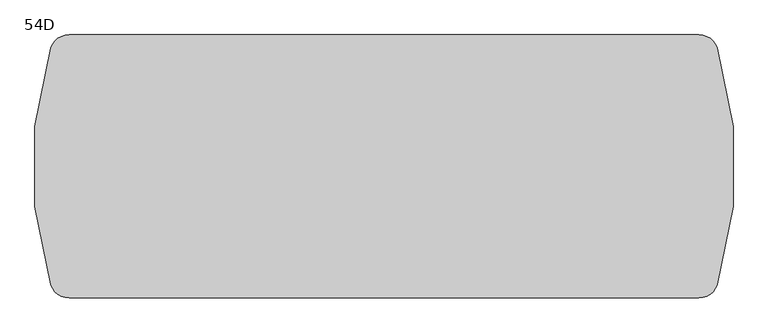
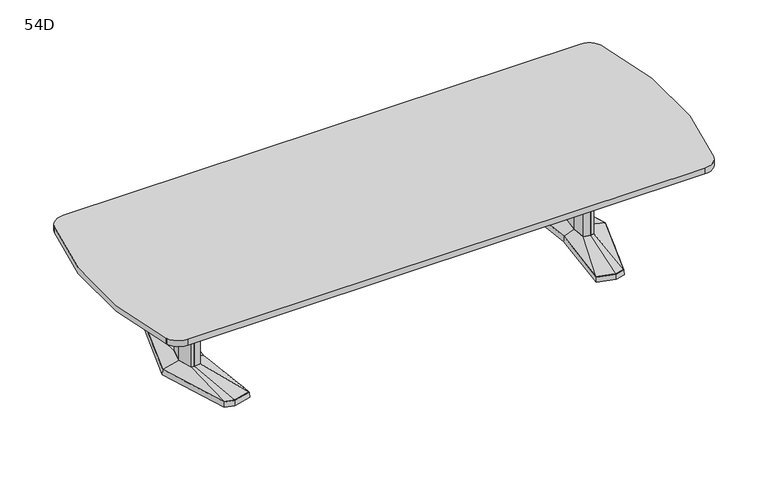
"""IFC4 building model written with IfcOpenShell, lengths in millimetres: furniture geometry, Coalesse_AM_Table_Conference_ETable2_SoftRadiused_12ft_AluminiumBase : 54D."""

from ifc_helpers import new_model, si_unit, point, frame, frame_2d, origin, place, context, project, spatial, polyline, circle_curve, trimmed, segment, composite_curve, outline, extrude, faceted_brep, source, transform, mapped, element, save
from ifc_brep_helpers import plane_surface, spline_surface, advanced_brep


def furniture_54d_2dc7402a(model_context):
    return source(origin(), model_context, "Body", "SolidModel", [
        faceted_brep([(1210.6306835, 455.5848221, 38.1), (1101.0531277, 426.2263816, 38.1), (1142.2163717, 0.0, 38.1), (1101.0531277, -426.2263816, 38.1), (1210.6306835, -455.5848221, 38.1), (1266.7570396, -440.5478297, 38.1), (1404.0684269, 0.0, 38.1), (1266.7570396, 440.5478297, 38.1), (1210.6306754, 457.2283104, 3.175), (1268.0124472, 441.8549756, 3.175), (1405.73125, 0.0, 3.175), (1268.0124472, -441.8549756, 3.175), (1210.6306754, -457.2283104, 3.175), (1099.34375, -427.4118891, 3.175), (1140.6214856, 0.0, 3.175), (1099.34375, 427.4118891, 3.175), (1214.220115, 428.3273875, 3.175), (1109.1718228, 402.1057253, 3.175), (1117.290518, 377.985069, 3.175), (1217.8095466, 401.0699529, 3.175), (1268.3691725, 387.524361, 3.175), (1267.5631061, 414.0360954, 3.175), (1214.220115, -428.3273875, 3.175), (1267.5631061, -414.0360954, 3.175), (1268.3691725, -387.524361, 3.175), (1217.8095466, -401.0699529, 3.175), (1117.290518, -377.985069, 3.175), (1109.1718228, -402.1057253, 3.175), (1340.8153621, 0.0, 3.175), (1308.5459611, 120.4193755, 3.175), (1259.8987222, 133.471665, 3.175), (1180.0180526, 119.4176561, 3.175), (1168.8868466, 0.0, 3.175), (1180.0180526, -119.4176561, 3.175), (1259.8987222, -133.471665, 3.175), (1308.5459611, -120.4193755, 3.175), (1214.220115, 428.3273875, 0.0), (1267.5631061, 414.0360954, 0.0), (1268.3691725, 387.524361, 0.0), (1217.8095466, 401.0699529, 0.0), (1117.290518, 377.985069, 0.0), (1109.1718228, 402.1057253, 0.0), (1214.220115, -428.3273875, 0.0), (1109.1718228, -402.1057253, 0.0), (1117.290518, -377.985069, 0.0), (1217.8095466, -401.0699529, 0.0), (1268.3691725, -387.524361, 0.0), (1267.5631061, -414.0360954, 0.0), (1340.8153621, 0.0, 0.0), (1308.5459611, -120.4193755, 0.0), (1259.8987222, -133.471665, 0.0), (1180.0180526, -119.4176561, 0.0), (1168.8868466, 0.0, 0.0), (1180.0180526, 119.4176561, 0.0), (1259.8987222, 133.471665, 0.0), (1308.5459611, 120.4193755, 0.0)], [[[0, 1, 2, 3, 4, 5, 6, 7]], [[8, 9, 10, 11, 12, 13, 14, 15], [16, 17, 18, 19, 20, 21], [22, 23, 24, 25, 26, 27], [28, 29, 30, 31, 32, 33, 34, 35]], [[7, 9, 8, 0]], [[6, 10, 9, 7]], [[5, 11, 10, 6]], [[4, 12, 11, 5]], [[3, 13, 12, 4]], [[2, 14, 13, 3]], [[1, 15, 14, 2]], [[0, 8, 15, 1]], [[36, 37, 38, 39, 40, 41]], [[42, 43, 44, 45, 46, 47]], [[48, 49, 50, 51, 52, 53, 54, 55]], [[36, 16, 21, 37]], [[37, 21, 20, 38]], [[38, 20, 19, 39]], [[39, 19, 18, 40]], [[40, 18, 17, 41]], [[41, 17, 16, 36]], [[42, 22, 27, 43]], [[43, 27, 26, 44]], [[44, 26, 25, 45]], [[45, 25, 24, 46]], [[46, 24, 23, 47]], [[47, 23, 22, 42]], [[48, 28, 35, 49]], [[49, 35, 34, 50]], [[50, 34, 33, 51]], [[51, 33, 32, 52]], [[52, 32, 31, 53]], [[53, 31, 30, 54]], [[54, 30, 29, 55]], [[55, 29, 28, 48]]]),
        faceted_brep([(1301.3710836, 0.0, 698.5), (1277.4358546, 89.3188359, 698.5), (1260.5824984, 93.8406728, 698.5), (1258.1826511, 94.4845635, 698.5), (1215.255146, 86.9320037, 698.5), (1207.1520056, 0.0, 698.5), (1215.255146, -86.9320037, 698.5), (1258.1826511, -94.4845635, 698.5), (1260.5824984, -93.8406728, 698.5), (1277.4358546, -89.3188359, 698.5), (1301.3710836, 0.0, 63.5), (1277.4358546, -89.3188359, 63.5), (1260.5824984, -93.8406728, 63.5), (1258.1826511, -94.4845635, 63.5), (1215.255146, -86.9320037, 63.5), (1207.1520056, 0.0, 63.5), (1215.255146, 86.9320037, 63.5), (1258.1826511, 94.4845635, 63.5), (1260.5824984, 93.8406728, 63.5), (1277.4358546, 89.3188359, 63.5)], [[[0, 1, 2, 3, 4, 5, 6, 7, 8, 9]], [[10, 11, 12, 13, 14, 15, 16, 17, 18, 19]], [[9, 11, 10, 0]], [[8, 12, 11, 9]], [[7, 13, 12, 8]], [[6, 14, 13, 7]], [[5, 15, 14, 6]], [[4, 16, 15, 5]], [[3, 17, 16, 4]], [[2, 18, 17, 3]], [[1, 19, 18, 2]], [[0, 10, 19, 1]]]),
        advanced_brep(
        [(1258.1826511, 94.4845635, 63.5), (1215.255146, 86.9320037, 63.5), (1207.1520056, 0.0, 63.5), (1215.255146, -86.9320037, 63.5), (1258.1826511, -94.4845635, 63.5), (1277.4358546, -89.3188359, 63.5), (1301.3710836, 0.0, 63.5), (1277.4358546, 89.3188359, 63.5), (1210.6306835, 455.5848221, 38.1), (1266.7570396, 440.5478297, 38.1), (1404.0684269, 0.0, 38.1), (1266.7570396, -440.5478297, 38.1), (1210.6306835, -455.5848221, 38.1), (1101.0531277, -426.2263816, 38.1), (1142.2163717, 0.0, 38.1), (1101.0531277, 426.2263816, 38.1)],
        [
            (0, 1),
            (1, 2),
            (2, 3),
            (3, 4),
            (4, 5),
            (5, 6),
            (6, 7),
            (7, 0),
            (8, 9),
            (9, 10),
            (10, 11),
            (11, 12),
            (12, 13),
            (13, 14),
            (14, 15),
            (15, 8),
            (8, 0),
            (7, 9),
            (6, 10),
            (5, 11),
            (4, 12),
            (3, 13),
            (2, 14),
            (1, 15),
        ],
        [
            plane_surface(frame((1251.2837991, 0.0, 63.5), z_axis=(0.0, 0.0, 1.0), x_axis=(-0.25884244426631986, -0.9659195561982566, 0.0))),
            plane_surface(frame((1212.8958125, 0.0, 38.1), z_axis=(0.0, 0.0, -1.0), x_axis=(-0.25884244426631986, -0.9659195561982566, 0.0))),
            spline_surface(1, 1, [[(1210.6306835, 455.5848221, 38.1), (1266.7570396, 440.5478297, 38.1)], [(1258.1826511, 94.4845635, 63.5), (1277.4358546, 89.3188359, 63.5)]], [2, 2], [2, 2], [0.0, 1.0], [0.0, 1.0]),
            spline_surface(1, 1, [[(1266.7570396, 440.5478297, 38.1), (1404.0684269, 0.0, 38.1)], [(1277.4358546, 89.3188359, 63.5), (1301.3710836, 0.0, 63.5)]], [2, 2], [2, 2], [0.0, 1.0], [0.0, 1.0]),
            spline_surface(1, 1, [[(1404.0684269, 0.0, 38.1), (1266.7570396, -440.5478297, 38.1)], [(1301.3710836, 0.0, 63.5), (1277.4358546, -89.3188359, 63.5)]], [2, 2], [2, 2], [0.0, 1.0], [0.0, 1.0]),
            spline_surface(1, 1, [[(1266.7570396, -440.5478297, 38.1), (1210.6306835, -455.5848221, 38.1)], [(1277.4358546, -89.3188359, 63.5), (1258.1826511, -94.4845635, 63.5)]], [2, 2], [2, 2], [0.0, 1.0], [0.0, 1.0]),
            spline_surface(1, 1, [[(1210.6306835, -455.5848221, 38.1), (1101.0531277, -426.2263816, 38.1)], [(1258.1826511, -94.4845635, 63.5), (1215.255146, -86.9320037, 63.5)]], [2, 2], [2, 2], [0.0, 1.0], [0.0, 1.0]),
            spline_surface(1, 1, [[(1101.0531277, -426.2263816, 38.1), (1142.2163717, 0.0, 38.1)], [(1215.255146, -86.9320037, 63.5), (1207.1520056, 0.0, 63.5)]], [2, 2], [2, 2], [0.0, 1.0], [0.0, 1.0]),
            spline_surface(1, 1, [[(1142.2163717, 0.0, 38.1), (1101.0531277, 426.2263816, 38.1)], [(1207.1520056, 0.0, 63.5), (1215.255146, 86.9320037, 63.5)]], [2, 2], [2, 2], [0.0, 1.0], [0.0, 1.0]),
            spline_surface(1, 1, [[(1101.0531277, 426.2263816, 38.1), (1210.6306835, 455.5848221, 38.1)], [(1215.255146, 86.9320037, 63.5), (1258.1826511, 94.4845635, 63.5)]], [2, 2], [2, 2], [0.0, 1.0], [0.0, 1.0]),
        ],
        [
            (0, [[1, 2, 3, 4, 5, 6, 7, 8]]),
            (1, [[9, 10, 11, 12, 13, 14, 15, 16]]),
            (2, [[17, -8, 18, -9]]),
            (3, [[-18, -7, 19, -10]]),
            (4, [[-19, -6, 20, -11]]),
            (5, [[-20, -5, 21, -12]]),
            (6, [[-21, -4, 22, -13]]),
            (7, [[-22, -3, 23, -14]]),
            (8, [[-23, -2, 24, -15]]),
            (9, [[-24, -1, -17, -16]]),
        ],
    ),
        faceted_brep([(-1210.6306835, 455.5848221, 38.1), (-1266.7570396, 440.5478297, 38.1), (-1404.0684269, 0.0, 38.1), (-1266.7570396, -440.5478297, 38.1), (-1210.6306835, -455.5848221, 38.1), (-1101.0531277, -426.2263816, 38.1), (-1142.2163717, 0.0, 38.1), (-1101.0531277, 426.2263816, 38.1), (-1210.6306754, 457.2283104, 3.175), (-1099.34375, 427.4118891, 3.175), (-1140.6214856, 0.0, 3.175), (-1099.34375, -427.4118891, 3.175), (-1210.6306754, -457.2283104, 3.175), (-1268.0124472, -441.8549756, 3.175), (-1405.73125, 0.0, 3.175), (-1268.0124472, 441.8549756, 3.175), (-1214.220115, 428.3273875, 3.175), (-1267.5631061, 414.0360954, 3.175), (-1268.3691725, 387.524361, 3.175), (-1217.8095466, 401.0699529, 3.175), (-1117.290518, 377.985069, 3.175), (-1109.1718228, 402.1057253, 3.175), (-1214.220115, -428.3273875, 3.175), (-1109.1718228, -402.1057253, 3.175), (-1117.290518, -377.985069, 3.175), (-1217.8095466, -401.0699529, 3.175), (-1268.3691725, -387.524361, 3.175), (-1267.5631061, -414.0360954, 3.175), (-1340.8153621, 0.0, 3.175), (-1308.5459611, -120.4193755, 3.175), (-1259.8987222, -133.471665, 3.175), (-1180.0180526, -119.4176561, 3.175), (-1168.8868466, 0.0, 3.175), (-1180.0180526, 119.4176561, 3.175), (-1259.8987222, 133.471665, 3.175), (-1308.5459611, 120.4193755, 3.175), (-1214.220115, 428.3273875, 0.0), (-1109.1718228, 402.1057253, 0.0), (-1117.290518, 377.985069, 0.0), (-1217.8095466, 401.0699529, 0.0), (-1268.3691725, 387.524361, 0.0), (-1267.5631061, 414.0360954, 0.0), (-1214.220115, -428.3273875, 0.0), (-1267.5631061, -414.0360954, 0.0), (-1268.3691725, -387.524361, 0.0), (-1217.8095466, -401.0699529, 0.0), (-1117.290518, -377.985069, 0.0), (-1109.1718228, -402.1057253, 0.0), (-1340.8153621, 0.0, 0.0), (-1308.5459611, 120.4193755, 0.0), (-1259.8987222, 133.471665, 0.0), (-1180.0180526, 119.4176561, 0.0), (-1168.8868466, 0.0, 0.0), (-1180.0180526, -119.4176561, 0.0), (-1259.8987222, -133.471665, 0.0), (-1308.5459611, -120.4193755, 0.0)], [[[0, 1, 2, 3, 4, 5, 6, 7]], [[8, 9, 10, 11, 12, 13, 14, 15], [16, 17, 18, 19, 20, 21], [22, 23, 24, 25, 26, 27], [28, 29, 30, 31, 32, 33, 34, 35]], [[1, 0, 8, 15]], [[2, 1, 15, 14]], [[3, 2, 14, 13]], [[4, 3, 13, 12]], [[5, 4, 12, 11]], [[6, 5, 11, 10]], [[7, 6, 10, 9]], [[0, 7, 9, 8]], [[36, 37, 38, 39, 40, 41]], [[42, 43, 44, 45, 46, 47]], [[48, 49, 50, 51, 52, 53, 54, 55]], [[36, 41, 17, 16]], [[41, 40, 18, 17]], [[40, 39, 19, 18]], [[39, 38, 20, 19]], [[38, 37, 21, 20]], [[37, 36, 16, 21]], [[42, 47, 23, 22]], [[47, 46, 24, 23]], [[46, 45, 25, 24]], [[45, 44, 26, 25]], [[44, 43, 27, 26]], [[43, 42, 22, 27]], [[48, 55, 29, 28]], [[55, 54, 30, 29]], [[54, 53, 31, 30]], [[53, 52, 32, 31]], [[52, 51, 33, 32]], [[51, 50, 34, 33]], [[50, 49, 35, 34]], [[49, 48, 28, 35]]]),
        faceted_brep([(-1301.3710836, 0.0, 698.5), (-1277.4358546, -89.3188359, 698.5), (-1260.5824984, -93.8406728, 698.5), (-1258.1826511, -94.4845635, 698.5), (-1215.255146, -86.9320037, 698.5), (-1207.1520056, 0.0, 698.5), (-1215.255146, 86.9320037, 698.5), (-1258.1826511, 94.4845635, 698.5), (-1260.5824984, 93.8406728, 698.5), (-1277.4358546, 89.3188359, 698.5), (-1301.3710836, 0.0, 63.5), (-1277.4358546, 89.3188359, 63.5), (-1260.5824984, 93.8406728, 63.5), (-1258.1826511, 94.4845635, 63.5), (-1215.255146, 86.9320037, 63.5), (-1207.1520056, 0.0, 63.5), (-1215.255146, -86.9320037, 63.5), (-1258.1826511, -94.4845635, 63.5), (-1260.5824984, -93.8406728, 63.5), (-1277.4358546, -89.3188359, 63.5)], [[[0, 1, 2, 3, 4, 5, 6, 7, 8, 9]], [[10, 11, 12, 13, 14, 15, 16, 17, 18, 19]], [[1, 0, 10, 19]], [[2, 1, 19, 18]], [[3, 2, 18, 17]], [[4, 3, 17, 16]], [[5, 4, 16, 15]], [[6, 5, 15, 14]], [[7, 6, 14, 13]], [[8, 7, 13, 12]], [[9, 8, 12, 11]], [[0, 9, 11, 10]]]),
        advanced_brep(
        [(-1258.1826511, 94.4845635, 63.5), (-1277.4358546, 89.3188359, 63.5), (-1301.3710836, 0.0, 63.5), (-1277.4358546, -89.3188359, 63.5), (-1258.1826511, -94.4845635, 63.5), (-1215.255146, -86.9320037, 63.5), (-1207.1520056, 0.0, 63.5), (-1215.255146, 86.9320037, 63.5), (-1210.6306835, 455.5848221, 38.1), (-1101.0531277, 426.2263816, 38.1), (-1142.2163717, 0.0, 38.1), (-1101.0531277, -426.2263816, 38.1), (-1210.6306835, -455.5848221, 38.1), (-1266.7570396, -440.5478297, 38.1), (-1404.0684269, 0.0, 38.1), (-1266.7570396, 440.5478297, 38.1)],
        [
            (0, 1),
            (1, 2),
            (2, 3),
            (3, 4),
            (4, 5),
            (5, 6),
            (6, 7),
            (7, 0),
            (8, 9),
            (9, 10),
            (10, 11),
            (11, 12),
            (12, 13),
            (13, 14),
            (14, 15),
            (15, 8),
            (15, 1),
            (0, 8),
            (14, 2),
            (13, 3),
            (12, 4),
            (11, 5),
            (10, 6),
            (9, 7),
        ],
        [
            plane_surface(frame((-1251.2837991, 0.0, 63.5), z_axis=(0.0, 0.0, 1.0), x_axis=(0.25884244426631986, -0.9659195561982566, 0.0))),
            plane_surface(frame((-1212.8958125, 0.0, 38.1), z_axis=(0.0, 0.0, -1.0), x_axis=(0.25884244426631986, -0.9659195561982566, 0.0))),
            spline_surface(1, 1, [[(-1210.6306835, 455.5848221, 38.1), (-1258.1826511, 94.4845635, 63.5)], [(-1266.7570396, 440.5478297, 38.1), (-1277.4358546, 89.3188359, 63.5)]], [2, 2], [2, 2], [0.0, 1.0], [0.0, 1.0]),
            spline_surface(1, 1, [[(-1266.7570396, 440.5478297, 38.1), (-1277.4358546, 89.3188359, 63.5)], [(-1404.0684269, 0.0, 38.1), (-1301.3710836, 0.0, 63.5)]], [2, 2], [2, 2], [0.0, 1.0], [0.0, 1.0]),
            spline_surface(1, 1, [[(-1404.0684269, 0.0, 38.1), (-1301.3710836, 0.0, 63.5)], [(-1266.7570396, -440.5478297, 38.1), (-1277.4358546, -89.3188359, 63.5)]], [2, 2], [2, 2], [0.0, 1.0], [0.0, 1.0]),
            spline_surface(1, 1, [[(-1266.7570396, -440.5478297, 38.1), (-1277.4358546, -89.3188359, 63.5)], [(-1210.6306835, -455.5848221, 38.1), (-1258.1826511, -94.4845635, 63.5)]], [2, 2], [2, 2], [0.0, 1.0], [0.0, 1.0]),
            spline_surface(1, 1, [[(-1210.6306835, -455.5848221, 38.1), (-1258.1826511, -94.4845635, 63.5)], [(-1101.0531277, -426.2263816, 38.1), (-1215.255146, -86.9320037, 63.5)]], [2, 2], [2, 2], [0.0, 1.0], [0.0, 1.0]),
            spline_surface(1, 1, [[(-1101.0531277, -426.2263816, 38.1), (-1215.255146, -86.9320037, 63.5)], [(-1142.2163717, 0.0, 38.1), (-1207.1520056, 0.0, 63.5)]], [2, 2], [2, 2], [0.0, 1.0], [0.0, 1.0]),
            spline_surface(1, 1, [[(-1142.2163717, 0.0, 38.1), (-1207.1520056, 0.0, 63.5)], [(-1101.0531277, 426.2263816, 38.1), (-1215.255146, 86.9320037, 63.5)]], [2, 2], [2, 2], [0.0, 1.0], [0.0, 1.0]),
            spline_surface(1, 1, [[(-1101.0531277, 426.2263816, 38.1), (-1215.255146, 86.9320037, 63.5)], [(-1210.6306835, 455.5848221, 38.1), (-1258.1826511, 94.4845635, 63.5)]], [2, 2], [2, 2], [0.0, 1.0], [0.0, 1.0]),
        ],
        [
            (0, [[1, 2, 3, 4, 5, 6, 7, 8]]),
            (1, [[9, 10, 11, 12, 13, 14, 15, 16]]),
            (2, [[-16, 17, -1, 18]]),
            (3, [[-15, 19, -2, -17]]),
            (4, [[-14, 20, -3, -19]]),
            (5, [[-13, 21, -4, -20]]),
            (6, [[-12, 22, -5, -21]]),
            (7, [[-11, 23, -6, -22]]),
            (8, [[-10, 24, -7, -23]]),
            (9, [[-9, -18, -8, -24]]),
        ],
    ),
        extrude(outline(composite_curve([segment(trimmed(circle_curve(frame_2d((265.7568081, -0.0087011)), 2094.5568081), [point((-1736.1539068, -616.0620365))], [point((-1736.1956256, 615.9090495))], False, "CARTESIAN"), True, "CONTINUOUS"), segment(polyline([(-1736.1956256, 615.9090495), (-1735.4453442, 618.0662966)]), True, "CONTINUOUS"), segment(trimmed(circle_curve(frame_2d((-1639.6558148, 584.2)), 101.6), [point((-1735.4453442, 618.0662966))], [point((-1639.6558148, 685.8))], False, "CARTESIAN"), True, "CONTINUOUS"), segment(polyline([(-1639.6558148, 685.8), (1639.6558148, 685.8)]), True, "CONTINUOUS"), segment(trimmed(circle_curve(frame_2d((1639.6558148, 584.2)), 101.6), [point((1639.6558148, 685.8))], [point((1735.4453442, 618.0662966))], False, "CARTESIAN"), True, "CONTINUOUS"), segment(polyline([(1735.4453442, 618.0662966), (1736.1956256, 615.9090495)]), True, "CONTINUOUS"), segment(trimmed(circle_curve(frame_2d((-265.6985927, 5.18e-05)), 2094.4985927), [point((1736.1956256, 615.9090495))], [point((1736.1539068, -616.0445288))], False, "CARTESIAN"), True, "CONTINUOUS"), segment(polyline([(1736.1539068, -616.0445288), (1735.4425275, -618.073651)]), True, "CONTINUOUS"), segment(trimmed(circle_curve(frame_2d((1639.6555469, -584.199927)), 101.600073), [point((1735.4425275, -618.073651))], [point((1639.6555469, -685.8))], False, "CARTESIAN"), True, "CONTINUOUS"), segment(polyline([(1639.6555469, -685.8), (-1639.6555469, -685.8)]), True, "CONTINUOUS"), segment(trimmed(circle_curve(frame_2d((-1639.6555469, -584.199927)), 101.600073), [point((-1639.6555469, -685.8))], [point((-1735.4425275, -618.073651))], False, "CARTESIAN"), True, "CONTINUOUS"), segment(polyline([(-1735.4425275, -618.073651), (-1736.1539068, -616.0620365)]), True, "CONTINUOUS")], self_intersect=False)), frame((0.0, 0.0, 698.5), z_axis=(0.0, 0.0, 1.0), x_axis=(1.0, 0.0, 0.0)), (0.0, 0.0, 1.0), 38.1),
        extrude(outline(polyline([(96.8375, 698.5), (103.1875, 698.5), (103.1875, 476.25), (-103.1875, 476.25), (-103.1875, 698.5), (-96.8375, 698.5), (-96.8375, 482.6), (96.8375, 482.6), (96.8375, 698.5)])), frame((-1207.29375, 0.0, 0.0), z_axis=(1.0, 0.0, 0.0), x_axis=(0.0, 1.0, 0.0)), (0.0, 0.0, 1.0), 2414.5875),
    ])


if __name__ == "__main__":
    model = new_model("IFC4")
    model_context = context("Model", 3, world=origin())
    ifc_project = project(units=[si_unit("LENGTHUNIT", "METRE", prefix="MILLI")], contexts=[model_context])
    site = spatial("IfcSite", under=ifc_project)
    building = spatial("IfcBuilding", under=site)
    placement = place(None, origin())
    furniture_54d_shape = furniture_54d_2dc7402a(model_context)
    element("IfcFurniture", 1, ObjectType="Coalesse_AM_Table_Conference_ETable2_SoftRadiused_12ft_AluminiumBase : 54D", at=placement, inside=building, context=model_context, shape_type="MappedRepresentation", body=[
        mapped(furniture_54d_shape, transform((0.0, 0.0, 0.0), x_axis=(1.0, 0.0, 0.0), y_axis=(0.0, 1.0, 0.0), z_axis=(0.0, 0.0, 1.0))),
    ])
    save(model, "model.ifc")
